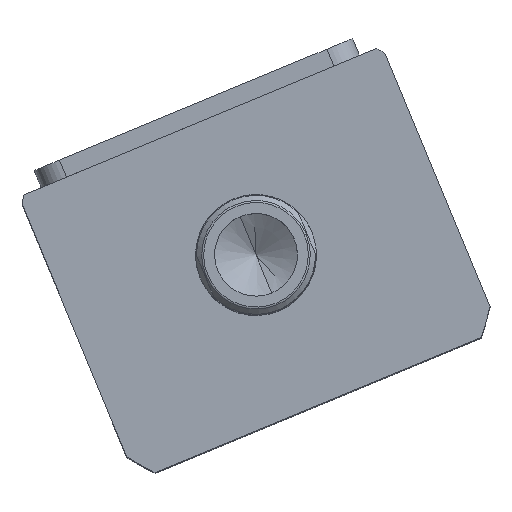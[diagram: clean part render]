
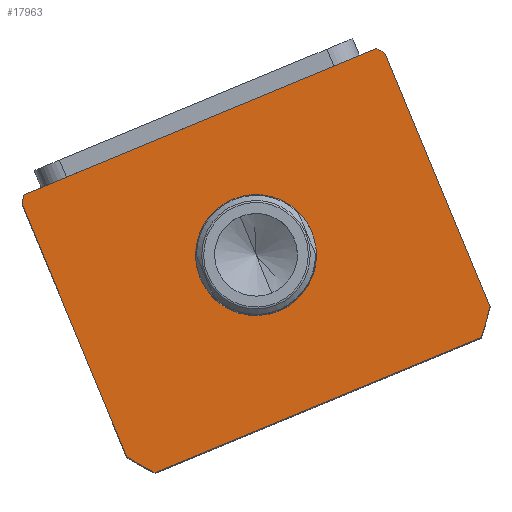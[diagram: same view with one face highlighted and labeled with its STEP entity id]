
A CAD part, top view. The second image highlights one B-rep face of the part: STEP entity #17963.
In plain terms, the highlighted planar face has unit normal (0, 0, 1) as drawn and (0, 0, -1) by its records, which use the part's own axes.
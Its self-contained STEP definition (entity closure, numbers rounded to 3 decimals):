
#164 = VERTEX_POINT ( 'NONE', #2225 ) ;
#348 = CARTESIAN_POINT ( 'NONE',  ( -17.5, -59.497, 0. ) ) ;
#1315 = CARTESIAN_POINT ( 'NONE',  ( 57., -17.497, 0. ) ) ;
#1344 = EDGE_CURVE ( 'NONE', #6557, #164, #5223, .T. ) ;
#1462 = CARTESIAN_POINT ( 'NONE',  ( 0., -59.497, 0. ) ) ;
#1587 = CARTESIAN_POINT ( 'NONE',  ( 0., -59.497, 0. ) ) ;
#1590 = CIRCLE ( 'NONE', #10718, 69.5 ) ;
#1622 = ORIENTED_EDGE ( 'NONE', *, *, #8382, .F. ) ;
#1652 = DIRECTION ( 'NONE',  ( 0., 0., 1. ) ) ;
#1904 = EDGE_CURVE ( 'NONE', #16522, #9034, #1590, .T. ) ;
#2225 = CARTESIAN_POINT ( 'NONE',  ( -57., -19.732, 0. ) ) ;
#2359 = DIRECTION ( 'NONE',  ( 0., 0., 1. ) ) ;
#2422 = DIRECTION ( 'NONE',  ( 1., 0., 0. ) ) ;
#2984 = DIRECTION ( 'NONE',  ( 1., 0., 0. ) ) ;
#3339 = LINE ( 'NONE', #1315, #10995 ) ;
#3365 = PLANE ( 'NONE',  #6496 ) ;
#3394 = EDGE_CURVE ( 'NONE', #14314, #3419, #3339, .T. ) ;
#3419 = VERTEX_POINT ( 'NONE', #17301 ) ;
#4083 = VERTEX_POINT ( 'NONE', #17567 ) ;
#4258 = CIRCLE ( 'NONE', #15901, 69.5 ) ;
#4290 = CARTESIAN_POINT ( 'NONE',  ( 0., -59.497, 0. ) ) ;
#4441 = AXIS2_PLACEMENT_3D ( 'NONE', #5558, #15680, #7012 ) ;
#4482 = ORIENTED_EDGE ( 'NONE', *, *, #4506, .F. ) ;
#4506 = EDGE_CURVE ( 'NONE', #7694, #14314, #14608, .T. ) ;
#4618 = EDGE_CURVE ( 'NONE', #16583, #15882, #18476, .T. ) ;
#4817 = ORIENTED_EDGE ( 'NONE', *, *, #13922, .F. ) ;
#4825 = DIRECTION ( 'NONE',  ( 0., 0., 1. ) ) ;
#5223 = CIRCLE ( 'NONE', #15929, 69.5 ) ;
#5558 = CARTESIAN_POINT ( 'NONE',  ( 0., -59.497, 0. ) ) ;
#5741 = DIRECTION ( 'NONE',  ( 1., 0., 0. ) ) ;
#5838 = EDGE_CURVE ( 'NONE', #9034, #7694, #15515, .T. ) ;
#6494 = ORIENTED_EDGE ( 'NONE', *, *, #14379, .T. ) ;
#6496 = AXIS2_PLACEMENT_3D ( 'NONE', #9092, #4825, #14911 ) ;
#6557 = VERTEX_POINT ( 'NONE', #9673 ) ;
#6620 = DIRECTION ( 'NONE',  ( 0., 0., 1. ) ) ;
#6990 = CARTESIAN_POINT ( 'NONE',  ( 57., -99.262, 0. ) ) ;
#7012 = DIRECTION ( 'NONE',  ( 1., 0., 0. ) ) ;
#7054 = CARTESIAN_POINT ( 'NONE',  ( 0., -59.497, 0. ) ) ;
#7694 = VERTEX_POINT ( 'NONE', #15252 ) ;
#7827 = VECTOR ( 'NONE', #11024, 1000. ) ;
#7858 = CARTESIAN_POINT ( 'NONE',  ( -57., -99.262, 0. ) ) ;
#8032 = FACE_BOUND ( 'NONE', #14397, .T. ) ;
#8222 = ORIENTED_EDGE ( 'NONE', *, *, #13572, .F. ) ;
#8306 = AXIS2_PLACEMENT_3D ( 'NONE', #4290, #14375, #5741 ) ;
#8382 = EDGE_CURVE ( 'NONE', #164, #16522, #17027, .T. ) ;
#8484 = DIRECTION ( 'NONE',  ( 1., 0., 0. ) ) ;
#8866 = VECTOR ( 'NONE', #17142, 1000. ) ;
#9034 = VERTEX_POINT ( 'NONE', #9432 ) ;
#9092 = CARTESIAN_POINT ( 'NONE',  ( 0., 0., 0. ) ) ;
#9352 = CARTESIAN_POINT ( 'NONE',  ( 17.5, -59.497, 0. ) ) ;
#9395 = ORIENTED_EDGE ( 'NONE', *, *, #5838, .F. ) ;
#9432 = CARTESIAN_POINT ( 'NONE',  ( -51.198, -106.497, 0. ) ) ;
#9554 = CARTESIAN_POINT ( 'NONE',  ( -57., -106.497, 0. ) ) ;
#9673 = CARTESIAN_POINT ( 'NONE',  ( -55.374, -17.497, 0. ) ) ;
#10392 = LINE ( 'NONE', #11940, #17634 ) ;
#10718 = AXIS2_PLACEMENT_3D ( 'NONE', #1587, #2359, #2984 ) ;
#10899 = EDGE_LOOP ( 'NONE', ( #4817, #11060, #4482, #9395, #11615, #1622, #11869, #8222 ) ) ;
#10976 = DIRECTION ( 'NONE',  ( 0., 1., 0. ) ) ;
#10995 = VECTOR ( 'NONE', #10976, 1000. ) ;
#11024 = DIRECTION ( 'NONE',  ( 1., 0., 0. ) ) ;
#11060 = ORIENTED_EDGE ( 'NONE', *, *, #3394, .F. ) ;
#11615 = ORIENTED_EDGE ( 'NONE', *, *, #1904, .F. ) ;
#11869 = ORIENTED_EDGE ( 'NONE', *, *, #1344, .F. ) ;
#11940 = CARTESIAN_POINT ( 'NONE',  ( -57., -17.497, 0. ) ) ;
#13381 = DIRECTION ( 'NONE',  ( -1., 0., 0. ) ) ;
#13514 = CIRCLE ( 'NONE', #15436, 17.5 ) ;
#13572 = EDGE_CURVE ( 'NONE', #4083, #6557, #10392, .T. ) ;
#13922 = EDGE_CURVE ( 'NONE', #3419, #4083, #4258, .T. ) ;
#14314 = VERTEX_POINT ( 'NONE', #6990 ) ;
#14375 = DIRECTION ( 'NONE',  ( 0., 0., 1. ) ) ;
#14379 = EDGE_CURVE ( 'NONE', #15882, #16583, #13514, .T. ) ;
#14397 = EDGE_LOOP ( 'NONE', ( #15538, #6494 ) ) ;
#14608 = CIRCLE ( 'NONE', #4441, 69.5 ) ;
#14816 = FACE_OUTER_BOUND ( 'NONE', #10899, .T. ) ;
#14911 = DIRECTION ( 'NONE',  ( 1., 0., 0. ) ) ;
#15252 = CARTESIAN_POINT ( 'NONE',  ( 51.198, -106.497, 0. ) ) ;
#15270 = CARTESIAN_POINT ( 'NONE',  ( 0., -59.497, 0. ) ) ;
#15436 = AXIS2_PLACEMENT_3D ( 'NONE', #7054, #17147, #8484 ) ;
#15515 = LINE ( 'NONE', #9554, #7827 ) ;
#15538 = ORIENTED_EDGE ( 'NONE', *, *, #4618, .T. ) ;
#15680 = DIRECTION ( 'NONE',  ( 0., 0., 1. ) ) ;
#15882 = VERTEX_POINT ( 'NONE', #348 ) ;
#15901 = AXIS2_PLACEMENT_3D ( 'NONE', #15270, #6620, #16729 ) ;
#15929 = AXIS2_PLACEMENT_3D ( 'NONE', #1462, #1652, #2422 ) ;
#16522 = VERTEX_POINT ( 'NONE', #7858 ) ;
#16583 = VERTEX_POINT ( 'NONE', #9352 ) ;
#16729 = DIRECTION ( 'NONE',  ( 1., 0., 0. ) ) ;
#17027 = LINE ( 'NONE', #17085, #8866 ) ;
#17085 = CARTESIAN_POINT ( 'NONE',  ( -57., -17.497, 0. ) ) ;
#17142 = DIRECTION ( 'NONE',  ( 0., -1., 0. ) ) ;
#17147 = DIRECTION ( 'NONE',  ( 0., 0., 1. ) ) ;
#17301 = CARTESIAN_POINT ( 'NONE',  ( 57., -19.732, 0. ) ) ;
#17567 = CARTESIAN_POINT ( 'NONE',  ( 55.374, -17.497, 0. ) ) ;
#17634 = VECTOR ( 'NONE', #13381, 1000. ) ;
#17963 = ADVANCED_FACE ( 'NONE', ( #8032, #14816 ), #3365, .F. ) ;
#18476 = CIRCLE ( 'NONE', #8306, 17.5 ) ;
